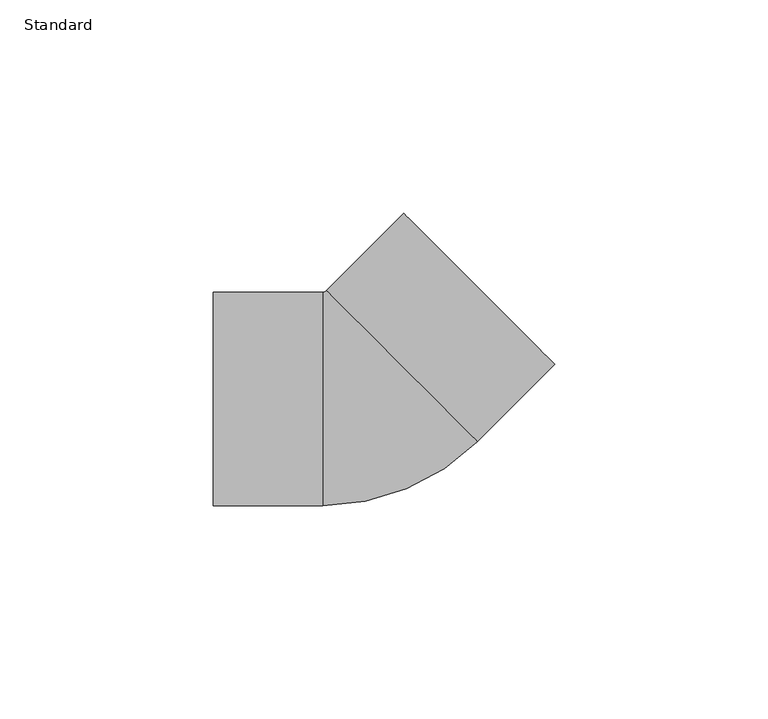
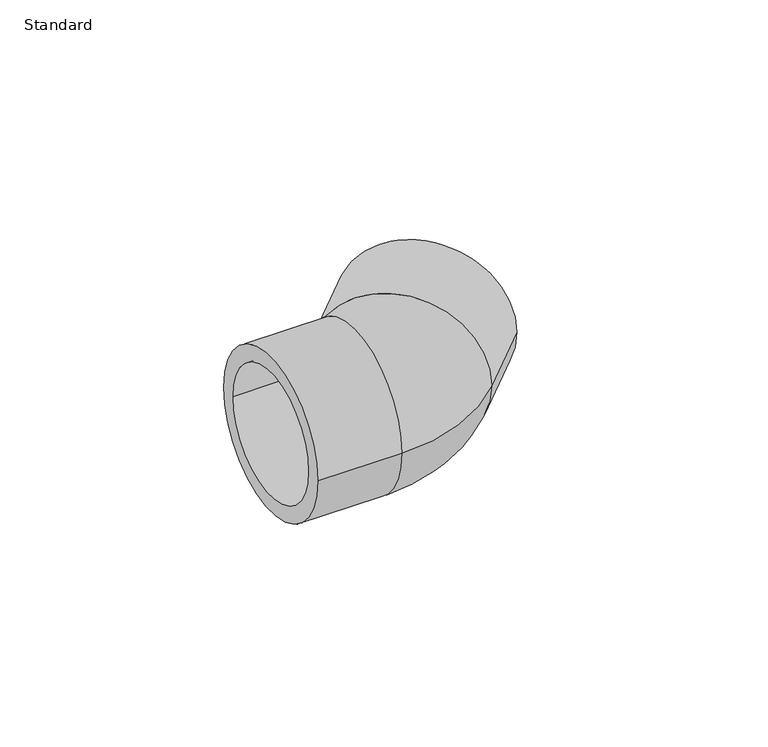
"""IFC4 building model written with IfcOpenShell, lengths in millimetres: pipe fitting geometry, Durapipe_PipeFitting_PVC_Elbow45deg : Standard."""

import ifcopenshell
import ifcopenshell.guid

model = None  # the IFC model being written
_history = None  # IfcOwnerHistory: only IFC2X3 demands one
_inside = {}  # id of a spatial element -> (the spatial element, [elements in it])
_under = {}  # id of a project, library or spatial element -> (it, [spatial elements below it])
_declared = {}  # id of a project -> (the project, [libraries it declares])
_typed = {}  # id of a type object -> (the type object, [elements of that type])
_made_of = {}  # id of a material, layer set ... -> (it, [elements and type objects made of it])


def new_model(schema):
    """Start an empty IFC model of exactly this schema.

    Asked for "IFC4X3", IfcOpenShell would pick the latest addendum, in which some entities
    have other attributes; the version numbers below select the first issue.
    IFC2X3 requires an IfcOwnerHistory on every rooted entity: one is made here for all.
    """
    global model, _history
    if schema == "IFC4X3":
        model = ifcopenshell.file(schema_version=(4, 3, 0, 0))
    else:
        model = ifcopenshell.file(schema=schema)
    _inside.clear()
    _under.clear()
    _declared.clear()
    _typed.clear()
    _made_of.clear()
    _history = None
    if model.schema == "IFC2X3":
        org = make("IfcOrganization", Name="unknown")
        user = make(
            "IfcPersonAndOrganization",
            ThePerson=make("IfcPerson", FamilyName="unknown"),
            TheOrganization=org,
        )
        app = make(
            "IfcApplication",
            ApplicationDeveloper=org,
            Version="unknown",
            ApplicationFullName="unknown",
            ApplicationIdentifier="unknown",
        )
        _history = make(
            "IfcOwnerHistory",
            OwningUser=user,
            OwningApplication=app,
            ChangeAction="ADDED",
            CreationDate=0,
        )
    return model


def make(cls, **values):
    """One entity of the class cls with the attributes given. An attribute that is None is left unset."""
    return model.create_entity(
        cls, **{name: value for name, value in values.items() if value is not None}
    )


def rooted(cls, **values):
    """An entity with a GlobalId (a new one), such as an element, a storey or a relation."""
    return make(cls, GlobalId=ifcopenshell.guid.new(), OwnerHistory=_history, **values)


def si_unit(unit_type, name, prefix=None):
    """IfcSIUnit, for example si_unit("LENGTHUNIT", "METRE", prefix="MILLI")."""
    return make("IfcSIUnit", UnitType=unit_type, Prefix=prefix, Name=name)


def assignment(units):
    """IfcUnitAssignment: the units of a project."""
    return None if units is None else make("IfcUnitAssignment", Units=units)


def point(xyz):
    """IfcCartesianPoint."""
    return None if xyz is None else make("IfcCartesianPoint", Coordinates=xyz)


def direction(xyz):
    """IfcDirection."""
    return None if xyz is None else make("IfcDirection", DirectionRatios=xyz)


def frame(location, z_axis=None, x_axis=None):
    """IfcAxis2Placement3D, a coordinate frame: its origin and axes. An axis left out is left unset."""
    return make(
        "IfcAxis2Placement3D",
        Location=point(location),
        Axis=direction(z_axis),
        RefDirection=direction(x_axis),
    )


def origin():
    """The frame at (0, 0, 0) with its axes left unset."""
    return frame((0.0, 0.0, 0.0))


def place(relative_to, where):
    """IfcLocalPlacement: puts the frame where relative to a parent placement (None: the world)."""
    return make(
        "IfcLocalPlacement", PlacementRelTo=relative_to, RelativePlacement=where
    )


def context(
    kind, dimensions, precision=None, world=None, true_north=None, identifier=None
):
    """IfcGeometricRepresentationContext, for example the 3D "Model" context."""
    return make(
        "IfcGeometricRepresentationContext",
        ContextIdentifier=identifier,
        ContextType=kind,
        CoordinateSpaceDimension=dimensions,
        Precision=precision,
        WorldCoordinateSystem=world,
        TrueNorth=true_north,
    )


def project(units=None, contexts=None):
    """IfcProject with its units and contexts."""
    return rooted(
        "IfcProject",
        Name="project",
        RepresentationContexts=contexts,
        UnitsInContext=assignment(units),
    )


def spatial(cls, under=None, at=None, **own):
    """A site, building, storey or space (cls), placed at a placement, below another one or the project."""
    s = rooted(cls, ObjectPlacement=at, **own)
    if under is not None:
        _under.setdefault(under.id(), (under, []))[1].append(s)
    return s


def polyline(points):
    """IfcPolyline through the points."""
    return make("IfcPolyline", Points=[point(p) for p in points])


def circle_curve(where, radius):
    """IfcCircle in the frame where."""
    return make("IfcCircle", Position=where, Radius=radius)


def ellipse_curve(where, semi_axis1, semi_axis2):
    """IfcEllipse in the frame where."""
    return make(
        "IfcEllipse", Position=where, SemiAxis1=semi_axis1, SemiAxis2=semi_axis2
    )


def trimmed(basis, trim1, trim2, sense, master):
    """IfcTrimmedCurve: the piece of a basis curve between two trims."""
    return make(
        "IfcTrimmedCurve",
        BasisCurve=basis,
        Trim1=trim1,
        Trim2=trim2,
        SenseAgreement=sense,
        MasterRepresentation=master,
    )


def shape(context_of_items, identifier, shape_type, items):
    """IfcShapeRepresentation: the items that make up one representation, for example the "Body"."""
    return make(
        "IfcShapeRepresentation",
        ContextOfItems=context_of_items,
        RepresentationIdentifier=identifier,
        RepresentationType=shape_type,
        Items=items,
    )


def source(mapping_origin, context_of_items, identifier, shape_type, items):
    """IfcRepresentationMap: a shape defined once, which mapped items show again and again."""
    return make(
        "IfcRepresentationMap",
        MappingOrigin=mapping_origin,
        MappedRepresentation=shape(context_of_items, identifier, shape_type, items),
    )


def transform(
    local_origin,
    x_axis=None,
    y_axis=None,
    z_axis=None,
    scale=None,
    scale2=None,
    scale3=None,
    uniform=True,
):
    """IfcCartesianTransformationOperator3D, or its non-uniform kind. x_axis, y_axis, z_axis: its Axis1, 2, 3."""
    if uniform:
        return make(
            "IfcCartesianTransformationOperator3D",
            Axis1=direction(x_axis),
            Axis2=direction(y_axis),
            LocalOrigin=point(local_origin),
            Scale=scale,
            Axis3=direction(z_axis),
        )
    return make(
        "IfcCartesianTransformationOperator3DnonUniform",
        Axis1=direction(x_axis),
        Axis2=direction(y_axis),
        LocalOrigin=point(local_origin),
        Scale=scale,
        Axis3=direction(z_axis),
        Scale2=scale2,
        Scale3=scale3,
    )


def mapped(mapping_source, mapping_target):
    """IfcMappedItem: shows the shape of a source again, moved by a transform."""
    return make(
        "IfcMappedItem", MappingSource=mapping_source, MappingTarget=mapping_target
    )


def made_of(thing, what):
    """Note that an element or type object is made of a material, layer set ...; save() writes the relation."""
    if what is not None:
        _made_of.setdefault(what.id(), (what, []))[1].append(thing)
    return thing


def element(
    cls,
    number,
    at=None,
    inside=None,
    cuts=None,
    type_object=None,
    material=None,
    context=None,
    identifier="Body",
    shape_type=None,
    held_by="IfcProductDefinitionShape",
    body=None,
    shapes=None,
    **own,
):
    """One element of the class cls, such as IfcWall. Its Tag is "e" and its number.

    at: its placement. inside: the storey or other place that contains it. cuts: it is an
    opening in that element (IfcRelVoidsElement). A single representation is given by context,
    identifier, shape_type and body (its items); several are given by shapes. held_by: the class
    of the entity that holds the representations. save() writes the other relations.
    """
    e = rooted(cls, Tag="e%d" % number, ObjectPlacement=at, **own)
    if body is not None:
        shapes = [shape(context, identifier, shape_type, body)]
    if shapes is not None:
        e.Representation = make(held_by, Representations=shapes)
    if inside is not None:
        _inside.setdefault(inside.id(), (inside, []))[1].append(e)
    if cuts is not None:
        rooted(
            "IfcRelVoidsElement", RelatingBuildingElement=cuts, RelatedOpeningElement=e
        )
    if type_object is not None:
        _typed.setdefault(type_object.id(), (type_object, []))[1].append(e)
    return made_of(e, material)


def aggregate(whole, parts):
    """IfcRelAggregates: a whole, such as a stair, and the parts it consists of."""
    return rooted("IfcRelAggregates", RelatingObject=whole, RelatedObjects=parts)


def save(model, path):
    """Write the relations noted so far, then the file.

    IfcRelAggregates (storeys below a building ...), IfcRelContainedInSpatialStructure (elements
    in a storey), IfcRelDefinesByType, IfcRelAssociatesMaterial and IfcRelDeclares: one each for
    every whole, place, type object, material and project.
    """
    for whole, parts in _under.values():
        aggregate(whole, parts)
    for where, things in _inside.values():
        rooted(
            "IfcRelContainedInSpatialStructure",
            RelatedElements=things,
            RelatingStructure=where,
        )
    for kind, things in _typed.values():
        rooted("IfcRelDefinesByType", RelatedObjects=things, RelatingType=kind)
    for what, things in _made_of.values():
        rooted("IfcRelAssociatesMaterial", RelatedObjects=things, RelatingMaterial=what)
    for by, libraries in _declared.values():
        rooted("IfcRelDeclares", RelatingContext=by, RelatedDefinitions=libraries)
    model.write(path)


def plane_surface(at):
    """IfcPlane: the flat surface through the origin of the frame at, square to its z axis."""
    return make("IfcPlane", Position=at)


def cylinder_surface(at, radius):
    """IfcCylindricalSurface: all points at the distance radius from the z axis of the frame at."""
    return make("IfcCylindricalSurface", Position=at, Radius=radius)


def revolved_surface(curve, axis_point, axis_direction):
    """IfcSurfaceOfRevolution: the curve turned about the line through axis_point along axis_direction."""
    return make(
        "IfcSurfaceOfRevolution",
        SweptCurve=make("IfcArbitraryOpenProfileDef", ProfileType="CURVE", Curve=curve),
        AxisPosition=make("IfcAxis1Placement", Location=point(axis_point), Axis=direction(axis_direction)),
    )


def advanced_brep(points, edges, surfaces, faces):
    """IfcAdvancedBrep: a solid bounded by faces that lie on surfaces and meet in shared edges.

    An edge is (start, end): straight between two places in points (the first is 0);
    or (start, end, curve); or (start, end, curve, False) where it runs against its curve.
    A face is (place in surfaces, loops), or (place, loops, False) where it looks against
    its surface's normal. A loop lists edges by number (the first is 1), with a minus sign
    where the edge is run from its end to its start. The first loop is the outer one.
    """
    corners = [point(p) for p in points]
    vertices = [make("IfcVertexPoint", VertexGeometry=c) for c in corners]
    made = []
    for start, end, *more in edges:
        made.append(
            make(
                "IfcEdgeCurve",
                EdgeStart=vertices[start],
                EdgeEnd=vertices[end],
                EdgeGeometry=more[0] if more else make("IfcPolyline", Points=[corners[start], corners[end]]),
                SameSense=more[1] if len(more) > 1 else True,
            )
        )
    hull = []
    for where, loops, *sense in faces:
        bounds = []
        for j, loop in enumerate(loops):
            ring = [make("IfcOrientedEdge", EdgeElement=made[abs(k) - 1], Orientation=k > 0) for k in loop]
            bounds.append(
                make(
                    "IfcFaceOuterBound" if j == 0 else "IfcFaceBound",
                    Bound=make("IfcEdgeLoop", EdgeList=ring),
                    Orientation=True,
                )
            )
        hull.append(make("IfcAdvancedFace", Bounds=bounds, FaceSurface=surfaces[where], SameSense=sense[0] if sense else True))
    return make("IfcAdvancedBrep", Outer=make("IfcClosedShell", CfsFaces=hull))


def standard_eebcdaaf(model_context):
    return source(origin(), model_context, "Body", "AdvancedBrep", [
        advanced_brep(
        [(-36.5, -25.0, 0.0), (-36.5, 25.0, 0.0), (-36.5, -20.0, 0.0), (-36.5, 20.0, 0.0), (-10.8553391, -25.0, 0.0), (-10.8553391, 25.0, 0.0), (25.3535534, -10.0017857, 0.0), (-10.0017857, 25.3535534, 0.0), (43.487067, 8.131728, 0.0), (8.131728, 43.487067, 0.0), (11.6672619, 39.9515331, 0.0), (39.9515331, 11.6672619, 0.0), (-10.5, 20.0, 0.0), (-10.5, -20.0, 0.0), (-10.5, 0.0, 0.0), (-6.7175144, 21.5667568, 0.0), (7.4246212, 7.4246212, 0.0), (21.5667568, -6.7175144, 0.0)],
        [
            (0, 1, circle_curve(frame((-36.5, 0.0, 0.0), z_axis=(-1.0, 0.0, 0.0), x_axis=(0.0, 1.0, 0.0)), 25.0)),
            (1, 0, circle_curve(frame((-36.5, 0.0, 0.0), z_axis=(-1.0, 0.0, 0.0), x_axis=(0.0, 1.0, 0.0)), 25.0)),
            (2, 3, circle_curve(frame((-36.5, 0.0, 0.0), z_axis=(1.0, 0.0, 0.0), x_axis=(0.0, -1.0, 0.0)), 20.0)),
            (3, 2, circle_curve(frame((-36.5, 0.0, 0.0), z_axis=(1.0, 0.0, 0.0), x_axis=(0.0, -1.0, 0.0)), 20.0)),
            (0, 4),
            (4, 5, circle_curve(frame((-10.8553391, 0.0, 0.0), z_axis=(-1.0, 0.0, 0.0), x_axis=(0.0, 1.0, 0.0)), 25.0)),
            (5, 1),
            (5, 4, circle_curve(frame((-10.8553391, 0.0, 0.0), z_axis=(-1.0, 0.0, 0.0), x_axis=(0.0, 1.0, 0.0)), 25.0)),
            (4, 6, circle_curve(frame((-10.8553391, 26.2071068, 0.0), z_axis=(0.0, 0.0, 1.0), x_axis=(0.0, -1.0, 0.0)), 51.2071068)),
            (6, 7, circle_curve(frame((7.6758839, 7.6758839, 0.0), z_axis=(-0.7071067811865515, -0.7071067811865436, 0.0), x_axis=(-0.7071067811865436, 0.7071067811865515, 0.0)), 25.0)),
            (7, 5, circle_curve(frame((-10.8553391, 26.2071068, 0.0), z_axis=(0.0, 0.0, -1.0), x_axis=(0.0, -1.0, 0.0)), 1.2071068)),
            (7, 6, circle_curve(frame((7.6758839, 7.6758839, 0.0), z_axis=(-0.707106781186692, -0.7071067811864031, 0.0), x_axis=(-0.7071067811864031, 0.707106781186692, 0.0)), 25.0)),
            (8, 9, circle_curve(frame((25.8093975, 25.8093975, 0.0), z_axis=(0.7071067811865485, 0.7071067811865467, 0.0), x_axis=(-0.7071067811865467, 0.7071067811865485, 0.0)), 25.0)),
            (9, 8, circle_curve(frame((25.8093975, 25.8093975, 0.0), z_axis=(0.7071067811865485, 0.7071067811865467, 0.0), x_axis=(-0.7071067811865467, 0.7071067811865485, 0.0)), 25.0)),
            (10, 11, circle_curve(frame((25.8093975, 25.8093975, 0.0), z_axis=(-0.707106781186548, -0.7071067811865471, 0.0), x_axis=(0.707106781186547, -0.7071067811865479, 0.0)), 20.0)),
            (11, 10, circle_curve(frame((25.8093975, 25.8093975, 0.0), z_axis=(-0.707106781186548, -0.7071067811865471, 0.0), x_axis=(0.707106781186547, -0.7071067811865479, 0.0)), 20.0)),
            (6, 8),
            (9, 7),
            (12, 3),
            (2, 13),
            (13, 12, circle_curve(frame((-10.5, 0.0, 0.0), z_axis=(1.0, 0.0, 0.0), x_axis=(0.0, -1.0, 0.0)), 20.0)),
            (12, 13, circle_curve(frame((-10.5, 0.0, 0.0), z_axis=(1.0, 0.0, 0.0), x_axis=(0.0, -1.0, 0.0)), 20.0)),
            (13, 14),
            (14, 12),
            (15, 16),
            (16, 17),
            (17, 15, circle_curve(frame((7.4246212, 7.4246212, 0.0), z_axis=(0.707106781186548, 0.7071067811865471, 0.0), x_axis=(0.707106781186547, -0.7071067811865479, 0.0)), 20.0)),
            (15, 17, circle_curve(frame((7.4246212, 7.4246212, 0.0), z_axis=(0.707106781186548, 0.7071067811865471, 0.0), x_axis=(0.707106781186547, -0.7071067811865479, 0.0)), 20.0)),
            (17, 11),
            (10, 15),
        ],
        [
            plane_surface(frame((-36.5, 0.0, 0.0), z_axis=(-1.0, 0.0, 0.0), x_axis=(0.0, 0.0, 1.0))),
            cylinder_surface(frame((-36.5, 0.0, 0.0), z_axis=(-1.0, 0.0, 0.0), x_axis=(0.0, 1.0, 0.0)), 25.0),
            revolved_surface(trimmed(ellipse_curve(frame((-10.8553391, 0.0, 0.0), z_axis=(-1.0, 0.0, 0.0), x_axis=(0.0, 1.0, 0.0)), 25.0, 25.0), [point((-10.8553391, -25.0, 0.0))], [point((-10.8553391, 25.0, 0.0))], True, "CARTESIAN"), (-10.8553391, 26.2071068, 0.0), (0.0, 0.0, 1.0)),
            revolved_surface(trimmed(ellipse_curve(frame((-10.8553391, 0.0, 0.0), z_axis=(-1.0, 0.0, 0.0), x_axis=(0.0, 1.0, 0.0)), 25.0, 25.0), [point((-10.8553391, 25.0, 0.0))], [point((-10.8553391, -25.0, 0.0))], True, "CARTESIAN"), (-10.8553391, 26.2071068, 0.0), (0.0, 0.0, 1.0)),
            plane_surface(frame((25.8093975, 25.8093975, 0.0), z_axis=(0.7071067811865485, 0.7071067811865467, 0.0), x_axis=(0.0, 0.0, 1.0))),
            cylinder_surface(frame((7.6758839, 7.6758839, 0.0), z_axis=(-0.7071067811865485, -0.7071067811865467, 0.0), x_axis=(-0.7071067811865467, 0.7071067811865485, 0.0)), 25.0),
            revolved_surface(polyline([(-10.5, -20.0, 0.0), (-36.5, -20.0, 0.0)]), (2000.0, 0.0, 0.0), (1.0, 0.0, 0.0)),
            plane_surface(frame((-10.5, 0.0, 0.0), z_axis=(-1.0, 0.0, 0.0), x_axis=(0.0, -1.0, 0.0))),
            plane_surface(frame((7.4246212, 7.4246212, 0.0), z_axis=(0.707106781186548, 0.7071067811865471, 0.0), x_axis=(0.7071067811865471, -0.707106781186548, 0.0))),
            revolved_surface(polyline([(39.95153312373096, 11.66726187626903, 0.0), (21.566756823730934, -6.7175144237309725, 0.0)]), (0.0, 0.0, 0.0), (0.7071067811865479, 0.707106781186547, 0.0)),
        ],
        [
            (0, [[1, 2], [3, 4]]),
            (1, [[-1, 5, 6, 7]]),
            (1, [[-2, -7, 8, -5]]),
            (2, [[-6, 9, 10, 11]]),
            (3, [[-8, -11, 12, -9]]),
            (4, [[13, 14], [15, 16]]),
            (5, [[-10, 17, -14, 18]]),
            (5, [[-12, -18, -13, -17]]),
            (6, [[19, -3, 20, 21]]),
            (6, [[-19, 22, -20, -4]]),
            (7, [[-21, 23, 24]]),
            (7, [[-22, -24, -23]]),
            (8, [[25, 26, 27]]),
            (8, [[-25, 28, -26]]),
            (9, [[-27, 29, -15, 30]]),
            (9, [[-28, -30, -16, -29]]),
        ],
    ),
    ])


if __name__ == "__main__":
    model = new_model("IFC4")
    model_context = context("Model", 3, world=origin())
    ifc_project = project(units=[si_unit("LENGTHUNIT", "METRE", prefix="MILLI")], contexts=[model_context])
    site = spatial("IfcSite", under=ifc_project)
    building = spatial("IfcBuilding", under=site)
    placement = place(None, origin())
    standard_shape = standard_eebcdaaf(model_context)
    element("IfcPipeFitting", 1, ObjectType="Durapipe_PipeFitting_PVC_Elbow45deg : Standard", at=placement, inside=building, context=model_context, shape_type="MappedRepresentation", body=[
        mapped(standard_shape, transform((0.0, 0.0, 0.0), x_axis=(1.0, 0.0, 0.0), y_axis=(0.0, 1.0, 0.0), z_axis=(0.0, 0.0, 1.0))),
    ])
    save(model, "model.ifc")
